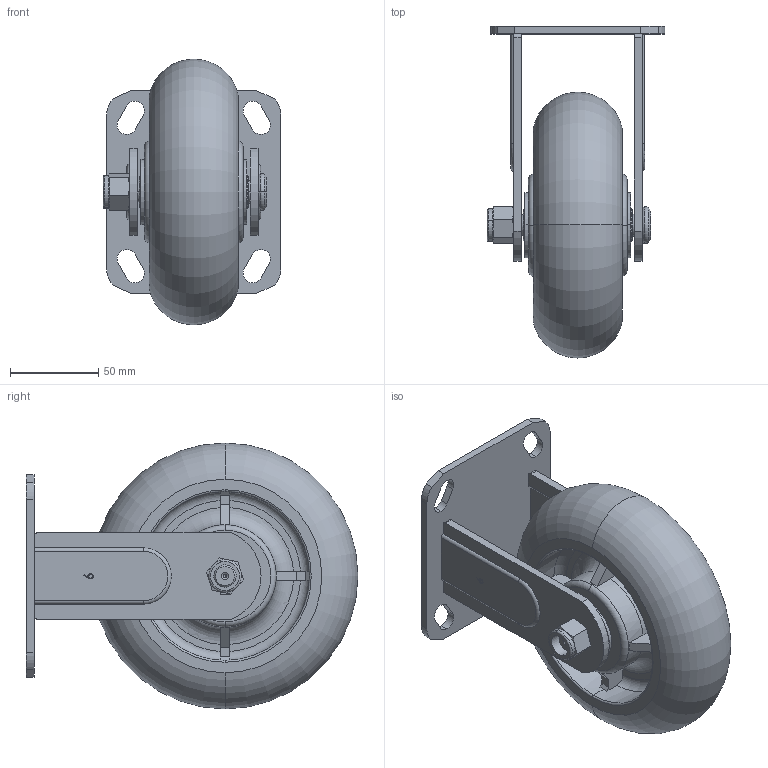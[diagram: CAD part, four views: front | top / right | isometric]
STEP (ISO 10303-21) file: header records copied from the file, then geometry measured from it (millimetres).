
FILE_DESCRIPTION (( 'STEP AP203' ), '1' );
FILE_NAME ('4111206001027-7.STEP', '2025-07-22T08:07:14', ( '' ), ( '' ), 'SwSTEP 2.0', 'SolidWorks 2019', '' );
FILE_SCHEMA (( 'CONFIG_CONTROL_DESIGN' ));
Length unit declared in the file: millimetre
Products named in the file (1): 4111206001027-7
Bounding box: 101 x 188.5 x 151 mm (x, y, z)
Volume: 734615.8 mm3; surface area: 127701 mm2
Topology: 5 solids, 5 shells, 304 faces, 789 edges, 517 vertices
Faces by surface type: plane 150, cylinder 88, torus 40, cone 24, sphere 2
Entity records: 10376 total; most frequent: CARTESIAN_POINT 2721, DIRECTION 1607, ORIENTED_EDGE 1578, EDGE_CURVE 789, AXIS2_PLACEMENT_3D 597, VERTEX_POINT 517, VECTOR 413, LINE 413
